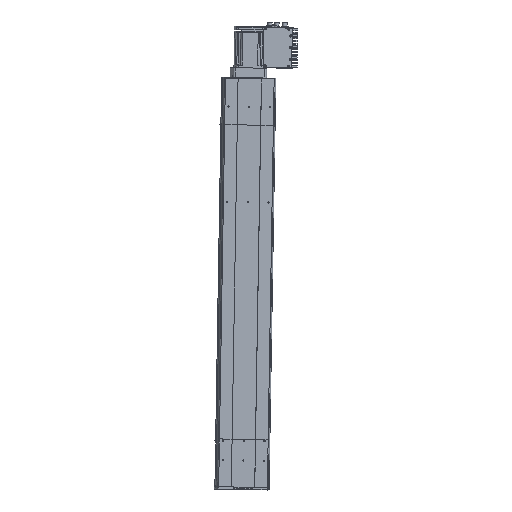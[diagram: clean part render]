
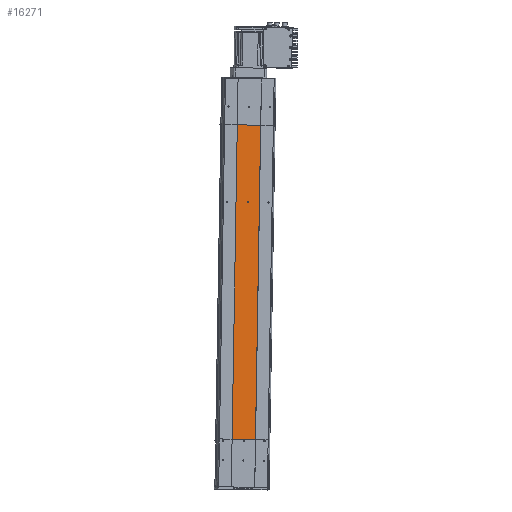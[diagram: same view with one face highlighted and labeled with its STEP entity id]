
A CAD part, front view. The second image highlights one B-rep face of the part: STEP entity #16271.
In plain terms, the highlighted planar face has unit normal (0.098, -0.995, 0.002) as drawn and (0, -1, 0) by its records, which use the part's own axes.
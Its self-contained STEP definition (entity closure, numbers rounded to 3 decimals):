
#14448 = CARTESIAN_POINT ( 'NONE',  ( 0., -32.5, 155.3 ) ) ;
#14644 = CARTESIAN_POINT ( 'NONE',  ( 30., -32.5, 350. ) ) ;
#14658 = CARTESIAN_POINT ( 'NONE',  ( 0., -32.5, 152.1 ) ) ;
#14684 = CARTESIAN_POINT ( 'NONE',  ( -30., -32.5, -450. ) ) ;
#14689 = VECTOR ( 'NONE', #14747, 1000. ) ;
#14693 = CARTESIAN_POINT ( 'NONE',  ( -30., -32.5, 350. ) ) ;
#14695 = CARTESIAN_POINT ( 'NONE',  ( 30., -32.5, 350. ) ) ;
#14696 = LINE ( 'NONE', #14695, #14689 ) ;
#14725 = LINE ( 'NONE', #14781, #14780 ) ;
#14735 = CARTESIAN_POINT ( 'NONE',  ( 30., -32.5, -450. ) ) ;
#14736 = AXIS2_PLACEMENT_3D ( 'NONE', #14766, #14754, #14753 ) ;
#14740 = DIRECTION ( 'NONE',  ( 1., 0., 0. ) ) ;
#14741 = VECTOR ( 'NONE', #14740, 1000. ) ;
#14742 = CARTESIAN_POINT ( 'NONE',  ( -30., -32.5, -450. ) ) ;
#14743 = LINE ( 'NONE', #14742, #14741 ) ;
#14747 = DIRECTION ( 'NONE',  ( 0., 0., -1. ) ) ;
#14753 = DIRECTION ( 'NONE',  ( 0., 0., -1. ) ) ;
#14754 = DIRECTION ( 'NONE',  ( 0., -1., 0. ) ) ;
#14758 = DIRECTION ( 'NONE',  ( 0., 0., -1. ) ) ;
#14759 = VECTOR ( 'NONE', #14758, 1000. ) ;
#14760 = CARTESIAN_POINT ( 'NONE',  ( -30., -32.5, 350. ) ) ;
#14766 = CARTESIAN_POINT ( 'NONE',  ( 0., -32.5, 153.7 ) ) ;
#14767 = LINE ( 'NONE', #14760, #14759 ) ;
#14768 = CIRCLE ( 'NONE', #14736, 1.6 ) ;
#14779 = DIRECTION ( 'NONE',  ( 1., 0., 0. ) ) ;
#14780 = VECTOR ( 'NONE', #14779, 1000. ) ;
#14781 = CARTESIAN_POINT ( 'NONE',  ( -30., -32.5, 350. ) ) ;
#14787 = PLANE ( 'NONE',  #14793 ) ;
#14793 = AXIS2_PLACEMENT_3D ( 'NONE', #14808, #14796, #14848 ) ;
#14794 = FACE_BOUND ( 'NONE', #16219, .T. ) ;
#14796 = DIRECTION ( 'NONE',  ( 0., 1., 0. ) ) ;
#14808 = CARTESIAN_POINT ( 'NONE',  ( -30., -32.5, 350. ) ) ;
#14809 = FACE_OUTER_BOUND ( 'NONE', #16211, .T. ) ;
#14848 = DIRECTION ( 'NONE',  ( 0., 0., 1. ) ) ;
#14923 = CARTESIAN_POINT ( 'NONE',  ( 0., -32.5, 153.7 ) ) ;
#14932 = CIRCLE ( 'NONE', #14938, 1.6 ) ;
#14938 = AXIS2_PLACEMENT_3D ( 'NONE', #14923, #14983, #14982 ) ;
#14982 = DIRECTION ( 'NONE',  ( 0., 0., -1. ) ) ;
#14983 = DIRECTION ( 'NONE',  ( 0., -1., 0. ) ) ;
#16092 = VERTEX_POINT ( 'NONE', #14448 ) ;
#16181 = VERTEX_POINT ( 'NONE', #14658 ) ;
#16191 = VERTEX_POINT ( 'NONE', #14644 ) ;
#16193 = VERTEX_POINT ( 'NONE', #14684 ) ;
#16211 = EDGE_LOOP ( 'NONE', ( #16407, #16373, #16381, #16234 ) ) ;
#16219 = EDGE_LOOP ( 'NONE', ( #16221, #16245 ) ) ;
#16221 = ORIENTED_EDGE ( 'NONE', *, *, #16251, .F. ) ;
#16223 = VERTEX_POINT ( 'NONE', #14693 ) ;
#16226 = EDGE_CURVE ( 'NONE', #16191, #16237, #14696, .T. ) ;
#16227 = EDGE_CURVE ( 'NONE', #16193, #16237, #14743, .T. ) ;
#16234 = ORIENTED_EDGE ( 'NONE', *, *, #16249, .T. ) ;
#16237 = VERTEX_POINT ( 'NONE', #14735 ) ;
#16241 = EDGE_CURVE ( 'NONE', #16223, #16191, #14725, .T. ) ;
#16245 = ORIENTED_EDGE ( 'NONE', *, *, #16344, .F. ) ;
#16249 = EDGE_CURVE ( 'NONE', #16223, #16193, #14767, .T. ) ;
#16251 = EDGE_CURVE ( 'NONE', #16181, #16092, #14768, .T. ) ;
#16271 = ADVANCED_FACE ( 'NONE', ( #14809, #14794 ), #14787, .F. ) ;
#16344 = EDGE_CURVE ( 'NONE', #16092, #16181, #14932, .T. ) ;
#16373 = ORIENTED_EDGE ( 'NONE', *, *, #16226, .F. ) ;
#16381 = ORIENTED_EDGE ( 'NONE', *, *, #16241, .F. ) ;
#16407 = ORIENTED_EDGE ( 'NONE', *, *, #16227, .T. ) ;
